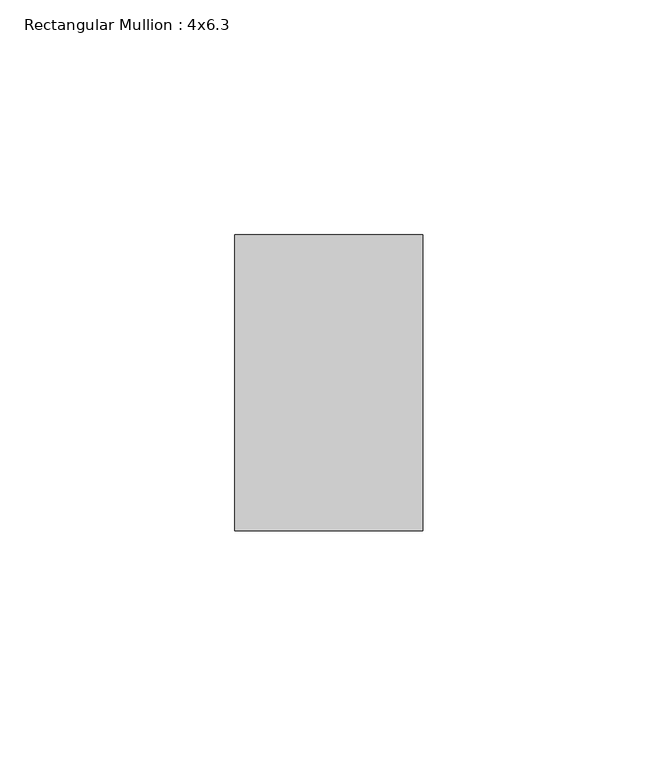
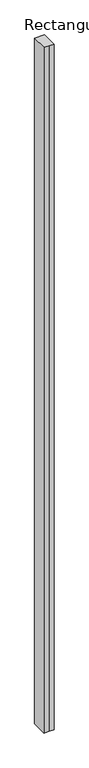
"""IFC4 building model written with IfcOpenShell, lengths in millimetres: member geometry, Rectangular Mullion : 4x6.3."""

from ifc_helpers import new_model, si_unit, frame, origin, place, context, project, spatial, polyline, outline, extrude, source, transform, mapped, element, save


def rectangular_mullion_4x6_3_54f221ac(model_context):
    return source(origin(), model_context, "Body", "SweptSolid", [
        extrude(outline(polyline([(-20.0, 20.0), (-20.0, 83.0), (20.0, 83.0), (20.0, 20.0), (0.0, 20.0), (-20.0, 20.0)])), frame((0.0, 0.0, -2878.1758831), z_axis=(0.0, 0.0, 1.0), x_axis=(1.0, 0.0, 0.0)), (0.0, 0.0, 1.0), 2878.1758831),
    ])


if __name__ == "__main__":
    model = new_model("IFC4")
    model_context = context("Model", 3, world=origin())
    ifc_project = project(units=[si_unit("LENGTHUNIT", "METRE", prefix="MILLI")], contexts=[model_context])
    site = spatial("IfcSite", under=ifc_project)
    building = spatial("IfcBuilding", under=site)
    placement = place(None, origin())
    rectangular_mullion_4x6_3_shape = rectangular_mullion_4x6_3_54f221ac(model_context)
    element("IfcMember", 1, ObjectType="Rectangular Mullion : 4x6.3", at=placement, inside=building, context=model_context, shape_type="MappedRepresentation", body=[
        mapped(rectangular_mullion_4x6_3_shape, transform((0.0, 0.0, 0.0), x_axis=(1.0, 0.0, 0.0), y_axis=(0.0, 1.0, 0.0), z_axis=(0.0, 0.0, 1.0))),
    ])
    save(model, "model.ifc")
